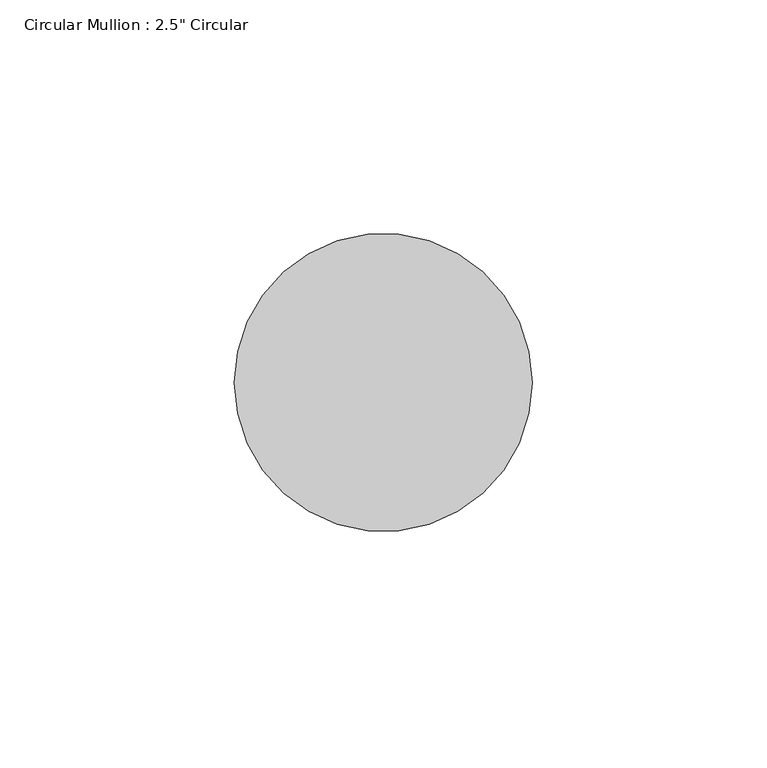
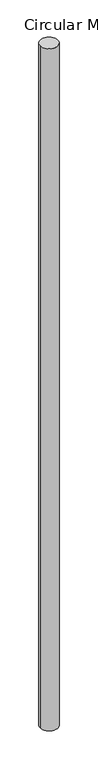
"""IFC4 building model written with IfcOpenShell, lengths in millimetres: member geometry."""

from ifc_helpers import new_model, si_unit, point, frame, origin, origin_2d, place, context, project, spatial, circle_curve, trimmed, segment, composite_curve, outline, extrude, source, transform, mapped, element, save


def member_ab1f9ae6(model_context):
    return source(origin(), model_context, "Body", "SweptSolid", [
        extrude(outline(composite_curve([segment(trimmed(circle_curve(origin_2d(), 31.75), [point((31.75, 0.0))], [point((-31.75, 0.0))], False, "CARTESIAN"), True, "CONTINUOUS"), segment(trimmed(circle_curve(origin_2d(), 31.75), [point((-31.75, 0.0))], [point((31.75, 0.0))], False, "CARTESIAN"), True, "CONTINUOUS")], self_intersect=False)), frame((0.0, 0.0, -2562.4565872), z_axis=(0.0, 0.0, 1.0), x_axis=(1.0, 0.0, 0.0)), (0.0, 0.0, 1.0), 2562.4565872),
    ])


if __name__ == "__main__":
    model = new_model("IFC4")
    model_context = context("Model", 3, world=origin())
    ifc_project = project(units=[si_unit("LENGTHUNIT", "METRE", prefix="MILLI")], contexts=[model_context])
    site = spatial("IfcSite", under=ifc_project)
    building = spatial("IfcBuilding", under=site)
    placement = place(None, origin())
    member_shape = member_ab1f9ae6(model_context)
    element("IfcMember", 1, ObjectType="Circular Mullion : 2.5\" Circular", at=placement, inside=building, context=model_context, shape_type="MappedRepresentation", body=[
        mapped(member_shape, transform((0.0, 0.0, 0.0), x_axis=(1.0, 0.0, 0.0), y_axis=(0.0, 1.0, 0.0), z_axis=(0.0, 0.0, 1.0))),
    ])
    save(model, "model.ifc")
